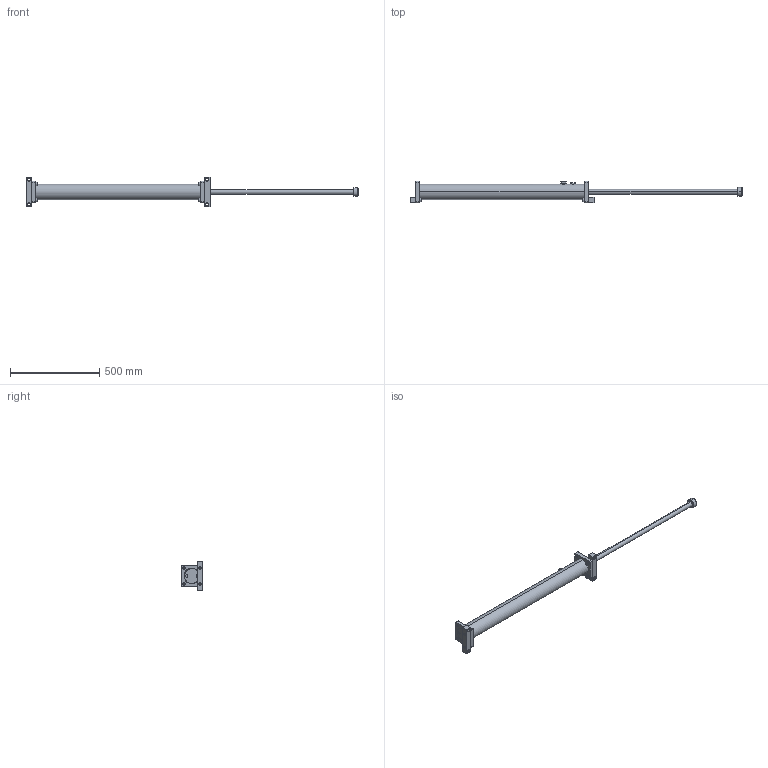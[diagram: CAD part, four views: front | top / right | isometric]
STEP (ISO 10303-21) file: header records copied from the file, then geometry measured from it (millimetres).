
FILE_DESCRIPTION (( 'STEP AP214' ), '1' );
FILE_NAME ('LDD1.5X32.STEP', '2019-01-16T05:50:18', ( 'user' ), ( 'Microsoft' ), 'SwSTEP 2.0', 'SolidWorks 2016', '' );
FILE_SCHEMA (( 'AUTOMOTIVE_DESIGN' ));
Length unit declared in the file: inch
Products named in the file (1): LDD1.5X32
Bounding box: 1862 x 121 x 165 mm (x, y, z)
Surface area: 481538.2 mm2 (no closed solid volume)
Topology: 0 solids, 24 shells, 258 faces, 703 edges, 472 vertices
Faces by surface type: plane 93, cylinder 80, cone 61, bspline 24
Entity records: 13483 total; most frequent: CARTESIAN_POINT 6996, DIRECTION 1363, ORIENTED_EDGE 1247, EDGE_CURVE 703, AXIS2_PLACEMENT_3D 527, VERTEX_POINT 472, EDGE_LOOP 314, LINE 309
